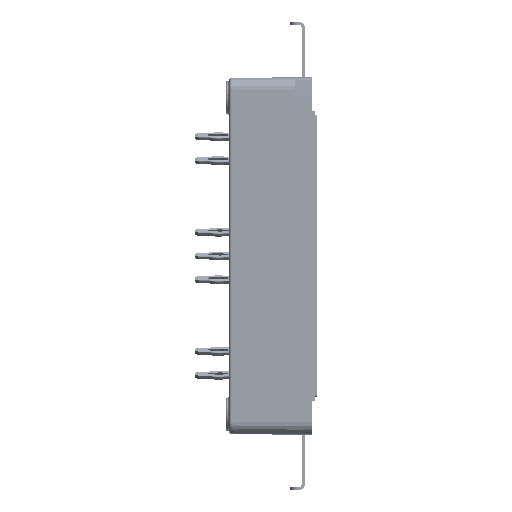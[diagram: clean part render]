
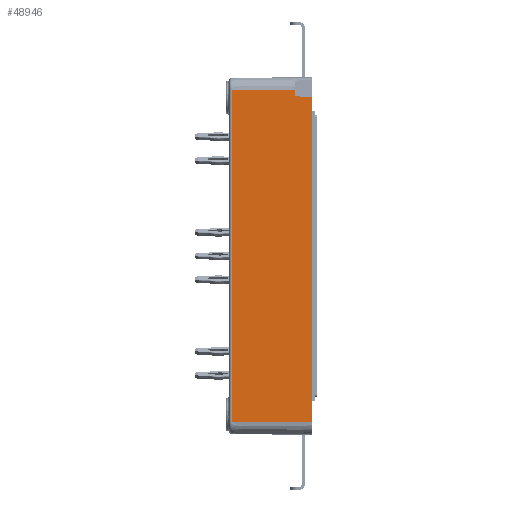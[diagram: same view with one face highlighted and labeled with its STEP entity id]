
A CAD part, left-side view. The second image highlights one B-rep face of the part: STEP entity #48946.
In plain terms, the highlighted planar face has unit normal (-1, 0.009, 0).
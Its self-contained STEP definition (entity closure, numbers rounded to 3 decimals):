
#946 = VECTOR ( 'NONE', #106419, 1000. ) ;
#3164 = CARTESIAN_POINT ( 'NONE',  ( -28.35, 0.015, -22.3 ) ) ;
#3843 = EDGE_CURVE ( 'NONE', #225604, #131962, #43692, .T. ) ;
#12173 = ORIENTED_EDGE ( 'NONE', *, *, #169447, .T. ) ;
#21484 = FACE_OUTER_BOUND ( 'NONE', #116324, .T. ) ;
#29153 = VECTOR ( 'NONE', #171744, 1000. ) ;
#43692 = LINE ( 'NONE', #137588, #29153 ) ;
#44014 = LINE ( 'NONE', #116010, #168331 ) ;
#48946 = ADVANCED_FACE ( 'NONE', ( #21484 ), #61682, .T. ) ;
#58659 = LINE ( 'NONE', #205093, #216910 ) ;
#59862 = DIRECTION ( 'NONE',  ( -0.009, -0.996, -0.087 ) ) ;
#61682 = PLANE ( 'NONE',  #227896 ) ;
#68919 = EDGE_CURVE ( 'NONE', #186229, #226535, #124642, .T. ) ;
#69323 = ORIENTED_EDGE ( 'NONE', *, *, #68919, .T. ) ;
#71249 = DIRECTION ( 'NONE',  ( 0., 0., -1. ) ) ;
#73202 = EDGE_CURVE ( 'NONE', #134553, #225604, #217465, .T. ) ;
#80105 = CARTESIAN_POINT ( 'NONE',  ( -28.33, 2.315, 21.46 ) ) ;
#92292 = CARTESIAN_POINT ( 'NONE',  ( -28.256, 10.818, -22.3 ) ) ;
#94671 = DIRECTION ( 'NONE',  ( -1., 0.009, 0. ) ) ;
#98406 = ORIENTED_EDGE ( 'NONE', *, *, #180547, .F. ) ;
#100952 = ORIENTED_EDGE ( 'NONE', *, *, #129850, .T. ) ;
#101309 = DIRECTION ( 'NONE',  ( 0., 0., 1. ) ) ;
#106419 = DIRECTION ( 'NONE',  ( -0.009, -1., 0. ) ) ;
#110098 = ORIENTED_EDGE ( 'NONE', *, *, #3843, .F. ) ;
#116010 = CARTESIAN_POINT ( 'NONE',  ( -28.35, 0.015, -22.3 ) ) ;
#116324 = EDGE_LOOP ( 'NONE', ( #98406, #110098, #151075, #12173, #69323, #100952 ) ) ;
#118371 = CARTESIAN_POINT ( 'NONE',  ( -28.33, 2.315, 22.3 ) ) ;
#121135 = CARTESIAN_POINT ( 'NONE',  ( -28.35, 0.015, 22.3 ) ) ;
#124642 = LINE ( 'NONE', #236914, #165988 ) ;
#129850 = EDGE_CURVE ( 'NONE', #226535, #137599, #44014, .T. ) ;
#131962 = VERTEX_POINT ( 'NONE', #80105 ) ;
#134553 = VERTEX_POINT ( 'NONE', #196060 ) ;
#136070 = DIRECTION ( 'NONE',  ( 0., 0., 1. ) ) ;
#137588 = CARTESIAN_POINT ( 'NONE',  ( -28.33, 2.315, -22.3 ) ) ;
#137599 = VERTEX_POINT ( 'NONE', #207128 ) ;
#151075 = ORIENTED_EDGE ( 'NONE', *, *, #73202, .F. ) ;
#154440 = VECTOR ( 'NONE', #71249, 1000. ) ;
#159207 = CARTESIAN_POINT ( 'NONE',  ( -28.35, 0.015, -22.3 ) ) ;
#163894 = CARTESIAN_POINT ( 'NONE',  ( -28.256, 10.818, -22.3 ) ) ;
#165988 = VECTOR ( 'NONE', #232124, 1000. ) ;
#168331 = VECTOR ( 'NONE', #101309, 1000. ) ;
#169447 = EDGE_CURVE ( 'NONE', #134553, #186229, #204160, .T. ) ;
#171744 = DIRECTION ( 'NONE',  ( 0., 0., -1. ) ) ;
#180547 = EDGE_CURVE ( 'NONE', #131962, #137599, #58659, .T. ) ;
#186229 = VERTEX_POINT ( 'NONE', #92292 ) ;
#196060 = CARTESIAN_POINT ( 'NONE',  ( -28.256, 10.818, 22.3 ) ) ;
#204160 = LINE ( 'NONE', #163894, #154440 ) ;
#205093 = CARTESIAN_POINT ( 'NONE',  ( -28.383, -3.767, 20.928 ) ) ;
#207128 = CARTESIAN_POINT ( 'NONE',  ( -28.35, 0.015, 21.259 ) ) ;
#216910 = VECTOR ( 'NONE', #59862, 1000. ) ;
#217465 = LINE ( 'NONE', #121135, #946 ) ;
#225604 = VERTEX_POINT ( 'NONE', #118371 ) ;
#226535 = VERTEX_POINT ( 'NONE', #159207 ) ;
#227896 = AXIS2_PLACEMENT_3D ( 'NONE', #3164, #94671, #136070 ) ;
#232124 = DIRECTION ( 'NONE',  ( -0.009, -1., 0. ) ) ;
#236914 = CARTESIAN_POINT ( 'NONE',  ( -28.35, 0.015, -22.3 ) ) ;
